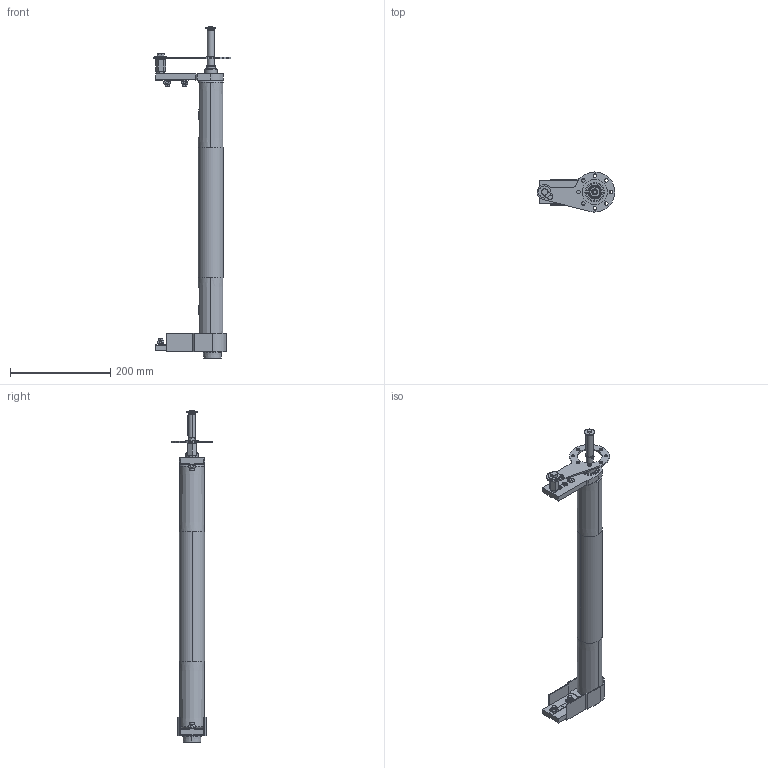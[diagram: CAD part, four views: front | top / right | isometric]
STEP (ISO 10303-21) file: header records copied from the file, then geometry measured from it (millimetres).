
FILE_DESCRIPTION (( 'STEP AP214' ), '1' );
FILE_NAME ('084.050.KDC.30.500.STEP', '2019-08-07T10:00:50', ( '' ), ( '' ), 'SwSTEP 2.0', 'SolidWorks 2018', '' );
FILE_SCHEMA (( 'AUTOMOTIVE_DESIGN' ));
Length unit declared in the file: millimetre
Products named in the file (23): CHIAVETTE_A 5x5x40 UNI 6604-69; 084.815.120_Default<A macchina>; 084.802.023_084.802.023; 084.807.005; 084.810.001; RONDELLE FASCIA LARGA UNI 6593_8.4x24 UNI 6593; 084.802.017_084.802.017; Circlip DIN 471 - 14 x 1_Circlip DIN 471 - 14 x 1; GRANI A PUNTA PIATTA UNI 5923_M8x20 UNI 5923; TPU12-5; 084.811.004; 084.807.013_084.807.003; 084.811.001; VITI TE UNI 5739_M8x25 UNI 5739; VITI TSEI UNI 5933_M4x12 UNI 5933; 084.807.004_084.807.004; 084.802.027; VITI TE UNI 5739_M5x12 UNI 5739; DADI ESAGONALI RIBASSATI UNI 5589_M8 UNI 5589; 084.302.000 DADI ALUSIC 13x13_084.302.004; 084.301.000 VITI ALUSIC_084.301.003; 084.050.KDC.30.500; RONDELLE FASCIA LARGA UNI 6593_5.4x20 UNI 6593
Assembly tree (32 placements, depth 2):
  084.050.KDC.30.500
    084.807.004_084.807.004
    084.807.013_084.807.003
    084.811.001
    084.802.017_084.802.017  x2
    084.811.004
    084.815.120_Default<A macchina>
    084.810.001  x2
    084.807.005
    084.802.023_084.802.023
    VITI TSEI UNI 5933_M4x12 UNI 5933  x2
    084.802.027
    084.301.000 VITI ALUSIC_084.301.003  x4
    084.302.000 DADI ALUSIC 13x13_084.302.004  x4
    DADI ESAGONALI RIBASSATI UNI 5589_M8 UNI 5589
    RONDELLE FASCIA LARGA UNI 6593_8.4x24 UNI 6593
    RONDELLE FASCIA LARGA UNI 6593_5.4x20 UNI 6593
    VITI TE UNI 5739_M5x12 UNI 5739
    VITI TE UNI 5739_M8x25 UNI 5739
    GRANI A PUNTA PIATTA UNI 5923_M8x20 UNI 5923
    TPU12-5
    CHIAVETTE_A 5x5x40 UNI 6604-69
    Circlip DIN 471 - 14 x 1_Circlip DIN 471 - 14 x 1  x2
Bounding box: 154.99 x 80 x 661.63 mm (x, y, z)
Volume: 597090.1 mm3; surface area: 392199.3 mm2
Topology: 34 solids, 36 shells, 918 faces, 2266 edges, 1464 vertices
Faces by surface type: plane 381, cylinder 295, cone 110, torus 70, bspline 54, sphere 8
Entity records: 22702 total; most frequent: CARTESIAN_POINT 4907, DIRECTION 3511, ORIENTED_EDGE 3408, EDGE_CURVE 1704, AXIS2_PLACEMENT_3D 1348, VERTEX_POINT 1104, LINE 815, VECTOR 815
